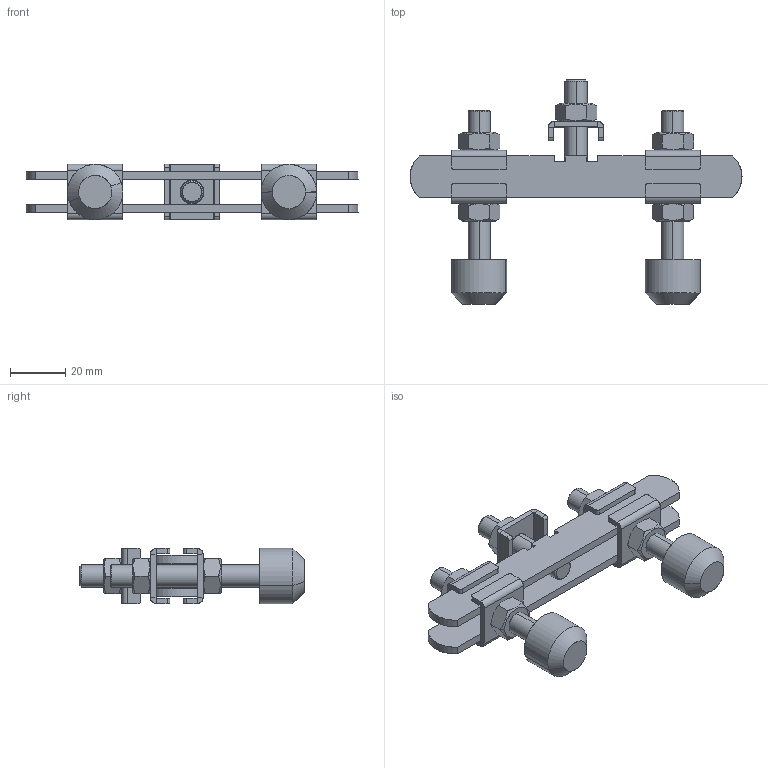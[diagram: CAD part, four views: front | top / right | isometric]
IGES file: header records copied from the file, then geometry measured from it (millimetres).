
Start section: SolidWorks IGES file using analytic representation for surfaces
Global section: file name: C:\Projetos\Ponteiras\PBD\PBD-M8.IGS; native system: SolidWorks 2011; preprocessor: SolidWorks 2011; author: Usuario; date: 110915.141100; units: millimetre
Bounding box: 120 x 81 x 20 mm (x, y, z)
Surface area: 25799.9 mm2 (no closed solid volume)
Topology: 0 solids, 0 shells, 304 faces, 3888 edges, 3884 vertices
Faces by surface type: bspline 164, revolution 140
